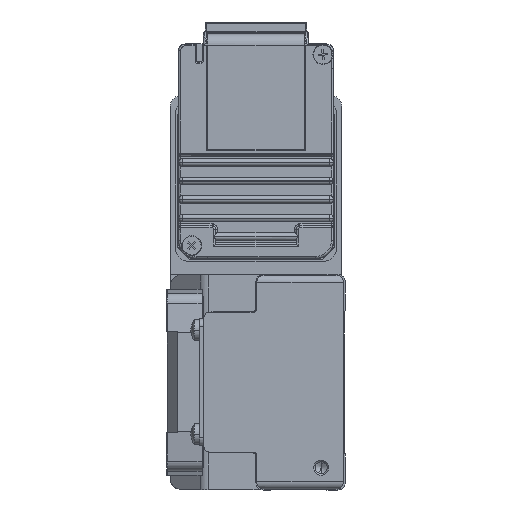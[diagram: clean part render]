
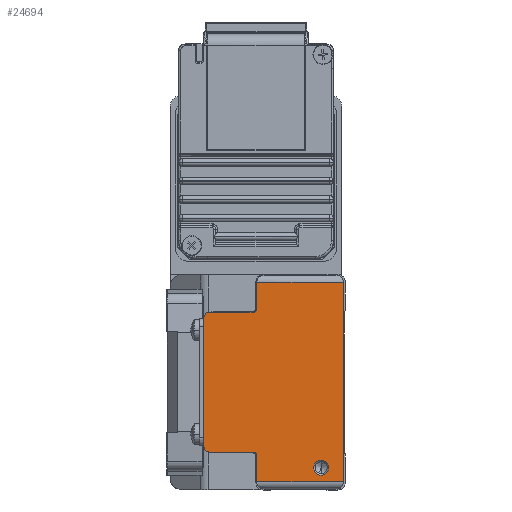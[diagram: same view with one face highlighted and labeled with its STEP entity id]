
A CAD part, left-side view. The second image highlights one B-rep face of the part: STEP entity #24694.
In plain terms, the highlighted planar face has unit normal (-1, 0, 0) as drawn and (0, 0, 1) by its records, which use the part's own axes.
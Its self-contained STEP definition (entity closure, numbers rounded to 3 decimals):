
#13 = DIRECTION ( 'NONE',  ( 0., 0., -1. ) ) ;
#45 = DIRECTION ( 'NONE',  ( 1., 0., 0. ) ) ;
#518 = VERTEX_POINT ( 'NONE', #44024 ) ;
#601 = VERTEX_POINT ( 'NONE', #30528 ) ;
#1387 = CARTESIAN_POINT ( 'NONE',  ( -26.8, 24., 320. ) ) ;
#1748 = VERTEX_POINT ( 'NONE', #29585 ) ;
#1785 = VERTEX_POINT ( 'NONE', #16550 ) ;
#2058 = FACE_OUTER_BOUND ( 'NONE', #40377, .T. ) ;
#2077 = DIRECTION ( 'NONE',  ( 0., 0., -1. ) ) ;
#2582 = VECTOR ( 'NONE', #34086, 1000. ) ;
#3126 = AXIS2_PLACEMENT_3D ( 'NONE', #34656, #3381, #31271 ) ;
#3381 = DIRECTION ( 'NONE',  ( 0., 0., 1. ) ) ;
#3640 = CIRCLE ( 'NONE', #4356, 1.5 ) ;
#3673 = ORIENTED_EDGE ( 'NONE', *, *, #39558, .F. ) ;
#3864 = CARTESIAN_POINT ( 'NONE',  ( -23., 6.5, 320. ) ) ;
#4175 = CIRCLE ( 'NONE', #7839, 2. ) ;
#4356 = AXIS2_PLACEMENT_3D ( 'NONE', #10076, #45029, #45 ) ;
#4650 = CARTESIAN_POINT ( 'NONE',  ( -25., 6.5, 320. ) ) ;
#5106 = VERTEX_POINT ( 'NONE', #24359 ) ;
#5146 = VERTEX_POINT ( 'NONE', #4650 ) ;
#5273 = CARTESIAN_POINT ( 'NONE',  ( -26.8, 0.5, 320. ) ) ;
#5762 = ORIENTED_EDGE ( 'NONE', *, *, #37871, .T. ) ;
#5795 = DIRECTION ( 'NONE',  ( 0., 1., 0. ) ) ;
#5858 = EDGE_LOOP ( 'NONE', ( #35115, #8577 ) ) ;
#5913 = DIRECTION ( 'NONE',  ( 1., 0., 0. ) ) ;
#5950 = EDGE_CURVE ( 'NONE', #12793, #32502, #35666, .T. ) ;
#6140 = DIRECTION ( 'NONE',  ( 1., 0., 0. ) ) ;
#6272 = VERTEX_POINT ( 'NONE', #45164 ) ;
#6342 = LINE ( 'NONE', #16418, #16857 ) ;
#6420 = CARTESIAN_POINT ( 'NONE',  ( 26.8, 23.8, 320. ) ) ;
#6927 = EDGE_CURVE ( 'NONE', #601, #12793, #31103, .T. ) ;
#7128 = ORIENTED_EDGE ( 'NONE', *, *, #18423, .F. ) ;
#7839 = AXIS2_PLACEMENT_3D ( 'NONE', #12115, #2077, #9138 ) ;
#8577 = ORIENTED_EDGE ( 'NONE', *, *, #10171, .T. ) ;
#8902 = PLANE ( 'NONE',  #10400 ) ;
#8985 = CARTESIAN_POINT ( 'NONE',  ( 18.8, 24.8, 320. ) ) ;
#9019 = VECTOR ( 'NONE', #5795, 1000. ) ;
#9027 = EDGE_CURVE ( 'NONE', #6272, #1785, #10529, .T. ) ;
#9138 = DIRECTION ( 'NONE',  ( -1., 0., 0. ) ) ;
#9176 = LINE ( 'NONE', #26354, #15443 ) ;
#9432 = ORIENTED_EDGE ( 'NONE', *, *, #24764, .T. ) ;
#9606 = CARTESIAN_POINT ( 'NONE',  ( -17.3, 38., 320. ) ) ;
#10076 = CARTESIAN_POINT ( 'NONE',  ( -17.3, 36.5, 320. ) ) ;
#10101 = EDGE_CURVE ( 'NONE', #32502, #518, #33588, .T. ) ;
#10171 = EDGE_CURVE ( 'NONE', #5106, #5146, #4175, .T. ) ;
#10400 = AXIS2_PLACEMENT_3D ( 'NONE', #20335, #13230, #5913 ) ;
#10529 = LINE ( 'NONE', #6420, #35521 ) ;
#11058 = ORIENTED_EDGE ( 'NONE', *, *, #10101, .T. ) ;
#11399 = CARTESIAN_POINT ( 'NONE',  ( -26.8, 0.5, 320. ) ) ;
#11734 = ORIENTED_EDGE ( 'NONE', *, *, #5950, .T. ) ;
#12115 = CARTESIAN_POINT ( 'NONE',  ( -23., 6.5, 320. ) ) ;
#12793 = VERTEX_POINT ( 'NONE', #41397 ) ;
#13230 = DIRECTION ( 'NONE',  ( 0., 0., 1. ) ) ;
#14019 = CIRCLE ( 'NONE', #24285, 1. ) ;
#14085 = ORIENTED_EDGE ( 'NONE', *, *, #9027, .T. ) ;
#14374 = EDGE_CURVE ( 'NONE', #41270, #1748, #27367, .T. ) ;
#15443 = VECTOR ( 'NONE', #26563, 1000. ) ;
#15966 = AXIS2_PLACEMENT_3D ( 'NONE', #3864, #13, #41811 ) ;
#16418 = CARTESIAN_POINT ( 'NONE',  ( 26.8, 24., 320. ) ) ;
#16550 = CARTESIAN_POINT ( 'NONE',  ( 19.8, 23.8, 320. ) ) ;
#16757 = CARTESIAN_POINT ( 'NONE',  ( -19.8, 23.8, 320. ) ) ;
#16857 = VECTOR ( 'NONE', #23079, 1000. ) ;
#17085 = CARTESIAN_POINT ( 'NONE',  ( -18.8, 36.5, 320. ) ) ;
#18423 = EDGE_CURVE ( 'NONE', #601, #1748, #38452, .T. ) ;
#19226 = EDGE_CURVE ( 'NONE', #5146, #5106, #24000, .T. ) ;
#19396 = CARTESIAN_POINT ( 'NONE',  ( 17.3, 38., 320. ) ) ;
#20335 = CARTESIAN_POINT ( 'NONE',  ( -26.8, 21.8, 320. ) ) ;
#20915 = VERTEX_POINT ( 'NONE', #19396 ) ;
#22031 = VERTEX_POINT ( 'NONE', #27121 ) ;
#22417 = EDGE_CURVE ( 'NONE', #33208, #41270, #3640, .T. ) ;
#22865 = DIRECTION ( 'NONE',  ( 0., 0., 1. ) ) ;
#23079 = DIRECTION ( 'NONE',  ( 0., -1., 0. ) ) ;
#23494 = DIRECTION ( 'NONE',  ( 0., -1., 0. ) ) ;
#24000 = CIRCLE ( 'NONE', #15966, 2. ) ;
#24285 = AXIS2_PLACEMENT_3D ( 'NONE', #41695, #38045, #38257 ) ;
#24359 = CARTESIAN_POINT ( 'NONE',  ( -21., 6.5, 320. ) ) ;
#24627 = VECTOR ( 'NONE', #6140, 1000. ) ;
#24694 = ADVANCED_FACE ( 'NONE', ( #37265, #2058 ), #8902, .T. ) ;
#24764 = EDGE_CURVE ( 'NONE', #22031, #20915, #41093, .T. ) ;
#24950 = ORIENTED_EDGE ( 'NONE', *, *, #22417, .T. ) ;
#25239 = ORIENTED_EDGE ( 'NONE', *, *, #40591, .T. ) ;
#25700 = VERTEX_POINT ( 'NONE', #40899 ) ;
#26354 = CARTESIAN_POINT ( 'NONE',  ( 17.3, 38., 320. ) ) ;
#26563 = DIRECTION ( 'NONE',  ( -1., 0., 0. ) ) ;
#27121 = CARTESIAN_POINT ( 'NONE',  ( 18.8, 36.5, 320. ) ) ;
#27367 = LINE ( 'NONE', #34423, #41985 ) ;
#28609 = DIRECTION ( 'NONE',  ( 0., -1., 0. ) ) ;
#29585 = CARTESIAN_POINT ( 'NONE',  ( -18.8, 24.8, 320. ) ) ;
#30528 = CARTESIAN_POINT ( 'NONE',  ( -19.8, 23.8, 320. ) ) ;
#31103 = LINE ( 'NONE', #16757, #2582 ) ;
#31271 = DIRECTION ( 'NONE',  ( 1., 0., 0. ) ) ;
#32502 = VERTEX_POINT ( 'NONE', #11399 ) ;
#33102 = CARTESIAN_POINT ( 'NONE',  ( -19.8, 24.8, 320. ) ) ;
#33208 = VERTEX_POINT ( 'NONE', #9606 ) ;
#33588 = LINE ( 'NONE', #5273, #24627 ) ;
#34086 = DIRECTION ( 'NONE',  ( -1., 0., 0. ) ) ;
#34342 = EDGE_CURVE ( 'NONE', #6272, #518, #6342, .T. ) ;
#34423 = CARTESIAN_POINT ( 'NONE',  ( -18.8, 36.5, 320. ) ) ;
#34656 = CARTESIAN_POINT ( 'NONE',  ( 17.3, 36.5, 320. ) ) ;
#35115 = ORIENTED_EDGE ( 'NONE', *, *, #19226, .T. ) ;
#35521 = VECTOR ( 'NONE', #45034, 1000. ) ;
#35666 = LINE ( 'NONE', #1387, #42495 ) ;
#36275 = AXIS2_PLACEMENT_3D ( 'NONE', #33102, #22865, #36338 ) ;
#36338 = DIRECTION ( 'NONE',  ( 1., 0., 0. ) ) ;
#37265 = FACE_BOUND ( 'NONE', #5858, .T. ) ;
#37871 = EDGE_CURVE ( 'NONE', #20915, #33208, #9176, .T. ) ;
#38045 = DIRECTION ( 'NONE',  ( 0., 0., 1. ) ) ;
#38257 = DIRECTION ( 'NONE',  ( 1., 0., 0. ) ) ;
#38452 = CIRCLE ( 'NONE', #36275, 1. ) ;
#38622 = ORIENTED_EDGE ( 'NONE', *, *, #34342, .F. ) ;
#39558 = EDGE_CURVE ( 'NONE', #25700, #1785, #14019, .T. ) ;
#40377 = EDGE_LOOP ( 'NONE', ( #43772, #7128, #41222, #11734, #11058, #38622, #14085, #3673, #25239, #9432, #5762, #24950 ) ) ;
#40591 = EDGE_CURVE ( 'NONE', #25700, #22031, #44146, .T. ) ;
#40899 = CARTESIAN_POINT ( 'NONE',  ( 18.8, 24.8, 320. ) ) ;
#41093 = CIRCLE ( 'NONE', #3126, 1.5 ) ;
#41222 = ORIENTED_EDGE ( 'NONE', *, *, #6927, .T. ) ;
#41270 = VERTEX_POINT ( 'NONE', #17085 ) ;
#41397 = CARTESIAN_POINT ( 'NONE',  ( -26.8, 23.8, 320. ) ) ;
#41695 = CARTESIAN_POINT ( 'NONE',  ( 19.8, 24.8, 320. ) ) ;
#41811 = DIRECTION ( 'NONE',  ( -1., 0., 0. ) ) ;
#41985 = VECTOR ( 'NONE', #23494, 1000. ) ;
#42495 = VECTOR ( 'NONE', #28609, 1000. ) ;
#43772 = ORIENTED_EDGE ( 'NONE', *, *, #14374, .T. ) ;
#44024 = CARTESIAN_POINT ( 'NONE',  ( 26.8, 0.5, 320. ) ) ;
#44146 = LINE ( 'NONE', #8985, #9019 ) ;
#45029 = DIRECTION ( 'NONE',  ( 0., 0., 1. ) ) ;
#45034 = DIRECTION ( 'NONE',  ( -1., 0., 0. ) ) ;
#45164 = CARTESIAN_POINT ( 'NONE',  ( 26.8, 23.8, 320. ) ) ;
